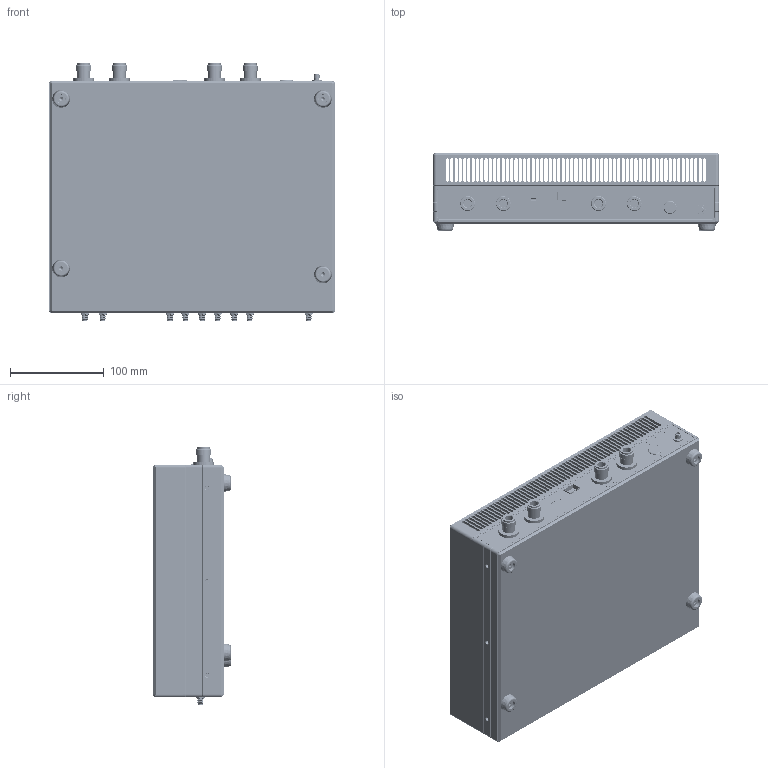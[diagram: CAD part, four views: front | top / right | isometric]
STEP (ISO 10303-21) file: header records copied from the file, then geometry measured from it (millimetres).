
FILE_DESCRIPTION(/* description */ (''),/* implementation_level */ '2;1');
FILE_NAME(/* name */ 'PCR4200_assembly_defeatured_12-18_v5.step',/* time_stamp */ '2025-12-18T15:18:22-08:00',/* author */ (''),/* organization */ (''),/* preprocessor_version */ 'ST-DEVELOPER v20.1',/* originating_system */ 'Autodesk Translation Framework v14.21.0.0',/* authorisation */ '');
FILE_SCHEMA (('AUTOMOTIVE_DESIGN { 1 0 10303 214 3 1 1 }'));
Products named in the file (34): PCR4200_assembly_defeatured; sectional v4; PCR4200_REV_P04 v1; 5157-9002; 5157-9006; 5157-9007; 5023-0025; 5023-0026; Assem1^PCR4200; SMA STRAIGHT 141SR PLUG; Part6^Assem1_PCR4200; ACM, PCR4200_Fan Plate PCB; 5157-9008; 5157-9009; C3402; 5020-0051; 5020-0083; PCBA, MB; 5028-0121_raw; SMP-MSLD-PCS-2; SMP-FSBA-645; 5020-0001_NUT POSITION 2; 142-1711-801; 5008-0076; 5070-0046; 71436-2464; 5020-0058; 5003-0005; 5020-0080; 5025-0097; 5025-3012_97763A818; 5025-0112_9405K14; 5157-9005_REVF v1; 5157-9005_REVE_2025-04-23
Assembly tree (78 placements, depth 5):
  PCR4200_assembly_defeatured
    sectional v4
      PCR4200_REV_P04 v1
        5157-9002
        5157-9006
        5157-9007
        5023-0025
        5023-0026
        Assem1^PCR4200
          SMA STRAIGHT 141SR PLUG  x10
          Part6^Assem1_PCR4200
        ACM, PCR4200_Fan Plate PCB
          5157-9008
          5157-9009
        C3402
        5020-0051
        5020-0083  x4
        5025-0112_9405K14  x4
        5025-3012_97763A818  x4
        PCBA, MB
          5028-0121_raw
          SMP-MSLD-PCS-2  x10
          SMP-FSBA-645  x10
          71436-2464  x2
          5020-0001_NUT POSITION 2  x9
          142-1711-801
          5008-0076
          5070-0046
          5020-0058
          5003-0005
          5020-0080
          5025-0097
    5157-9005_REVF v1
      5157-9005_REVE_2025-04-23
Bounding box: 304.8 x 82.91 x 274.4 mm (x, y, z)
Volume: 3656806 mm3; surface area: 515939.8 mm2
Topology: 48 solids, 48 shells, 8437 faces, 23559 edges, 15567 vertices
Faces by surface type: plane 4792, bspline 1692, cylinder 1488, cone 431, torus 34
Full cylindrical faces by diameter (mm): 0.762 x9, 0.914 x9, 1.27 x18, 1.295 x6, 1.4 x2, 1.524 x1, 1.552 x2, 1.778 x1, 1.9 x2, 1.907 x1, 1.908 x1, 2.54 x12, 3.048 x7, 3.454 x15, 3.937 x6, 4.089 x9, 4.2 x10, 4.366 x4, 4.5 x4, 4.597 x6, 4.674 x9, 4.762 x1, 5.08 x9, 5.334 x6, 5.385 x14, 5.664 x18, 5.95 x1, 6.274 x1, 6.299 x5, 6.35 x90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
Entity records: 274092 total; most frequent: CARTESIAN_POINT 110184, ORIENTED_EDGE 35728, DIRECTION 28484, EDGE_CURVE 17864, LINE 12732, VECTOR 12732, VERTEX_POINT 11742, AXIS2_PLACEMENT_3D 7876
